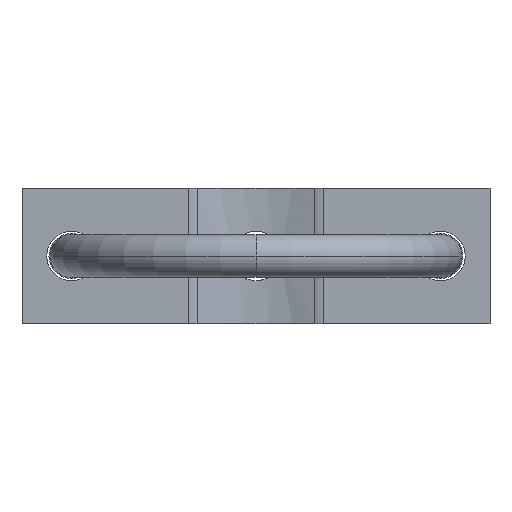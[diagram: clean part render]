
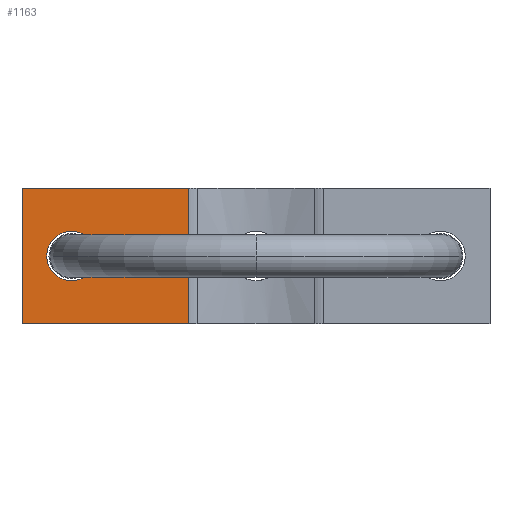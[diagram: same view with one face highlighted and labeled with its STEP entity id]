
A CAD part, front view. The second image highlights one B-rep face of the part: STEP entity #1163.
In plain terms, the highlighted planar face has unit normal (0, -1, 0).
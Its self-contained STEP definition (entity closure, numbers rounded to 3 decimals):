
#602=DIRECTION('',(1.,0.,0.));
#603=VECTOR('',#602,37.);
#604=CARTESIAN_POINT('',(-52.,40.831,-15.));
#605=LINE('',#604,#603);
#609=CARTESIAN_POINT('',(-41.,40.831,0.));
#610=DIRECTION('',(0.,1.,0.));
#611=DIRECTION('',(0.,0.,-1.));
#612=AXIS2_PLACEMENT_3D('',#609,#610,#611);
#617=CARTESIAN_POINT('',(-41.,40.831,0.));
#618=DIRECTION('',(0.,1.,0.));
#619=DIRECTION('',(0.,0.,1.));
#620=AXIS2_PLACEMENT_3D('',#617,#618,#619);
#673=DIRECTION('',(0.,0.,-1.));
#674=VECTOR('',#673,30.);
#675=CARTESIAN_POINT('',(-15.,40.831,15.));
#676=LINE('',#675,#674);
#687=DIRECTION('',(1.,0.,0.));
#688=VECTOR('',#687,37.);
#689=CARTESIAN_POINT('',(-52.,40.831,15.));
#690=LINE('',#689,#688);
#784=DIRECTION('',(0.,0.,1.));
#785=VECTOR('',#784,30.);
#786=CARTESIAN_POINT('',(-52.,40.831,-15.));
#787=LINE('',#786,#785);
#1068=CARTESIAN_POINT('',(-52.,40.831,-15.));
#1069=CARTESIAN_POINT('',(-15.,40.831,-15.));
#1070=VERTEX_POINT('',#1068);
#1071=VERTEX_POINT('',#1069);
#1072=CARTESIAN_POINT('',(-15.,40.831,15.));
#1073=VERTEX_POINT('',#1072);
#1074=CARTESIAN_POINT('',(-52.,40.831,15.));
#1075=VERTEX_POINT('',#1074);
#1135=CARTESIAN_POINT('',(-41.,40.831,-5.5));
#1137=VERTEX_POINT('',#1135);
#1139=CARTESIAN_POINT('',(-41.,40.831,5.5));
#1141=VERTEX_POINT('',#1139);
#1142=CARTESIAN_POINT('',(-15.,40.831,15.));
#1143=DIRECTION('',(0.,-1.,0.));
#1144=DIRECTION('',(0.,0.,-1.));
#1145=AXIS2_PLACEMENT_3D('',#1142,#1143,#1144);
#1146=PLANE('',#1145);
#1148=ORIENTED_EDGE('',*,*,#1147,.F.);
#1150=ORIENTED_EDGE('',*,*,#1149,.T.);
#1152=ORIENTED_EDGE('',*,*,#1151,.T.);
#1154=ORIENTED_EDGE('',*,*,#1153,.T.);
#1155=EDGE_LOOP('',(#1148,#1150,#1152,#1154));
#1156=FACE_OUTER_BOUND('',#1155,.F.);
#1158=ORIENTED_EDGE('',*,*,#1157,.F.);
#1160=ORIENTED_EDGE('',*,*,#1159,.F.);
#1161=EDGE_LOOP('',(#1158,#1160));
#1162=FACE_BOUND('',#1161,.F.);
#613=CIRCLE('',#612,5.5);
#621=CIRCLE('',#620,5.5);
#1147=EDGE_CURVE('',#1070,#1071,#605,.T.);
#1149=EDGE_CURVE('',#1070,#1075,#787,.T.);
#1151=EDGE_CURVE('',#1075,#1073,#690,.T.);
#1153=EDGE_CURVE('',#1073,#1071,#676,.T.);
#1157=EDGE_CURVE('',#1137,#1141,#613,.T.);
#1159=EDGE_CURVE('',#1141,#1137,#621,.T.);
#1163=ADVANCED_FACE('',(#1156,#1162),#1146,.T.);
